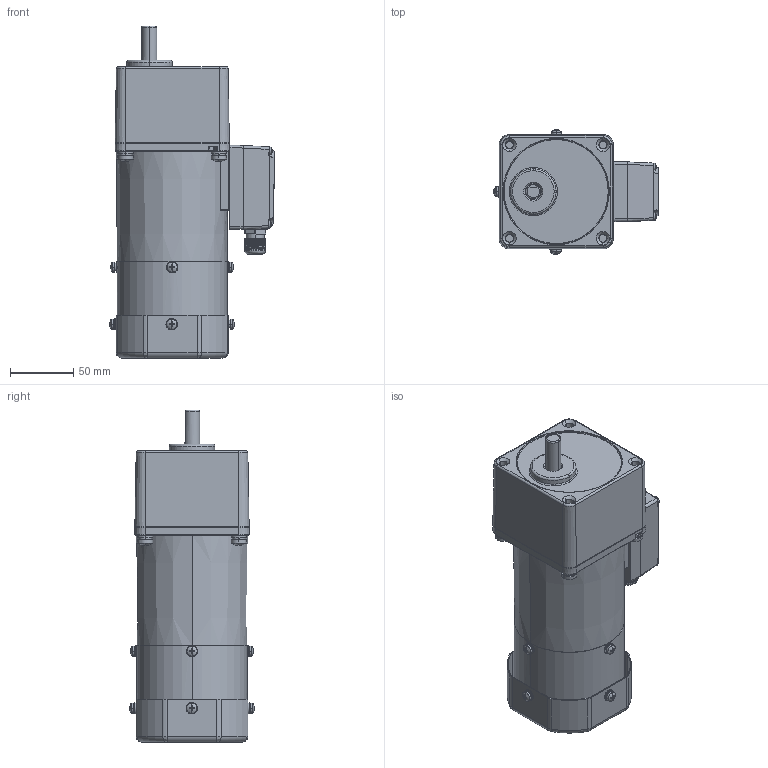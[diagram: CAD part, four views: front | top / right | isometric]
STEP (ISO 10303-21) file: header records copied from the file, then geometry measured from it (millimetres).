
FILE_DESCRIPTION (( 'STEP AP203' ), '1' );
FILE_NAME ('5RK60GN-CMFT(5GN3K-200K).STEP', '2023-08-08T06:03:16', ( 'Windows User' ), ( 'P R C' ), 'SwSTEP 2.0', 'SolidWorks 2019', '' );
FILE_SCHEMA (( 'CONFIG_CONTROL_DESIGN' ));
Length unit declared in the file: millimetre
Products named in the file (14): ^___5RK60GN-CMFT(5GN3K-200K)(2)_5RK60GN-CMFT(5GN3K-200K); 5RK60GN-CMFT(5GN3K-200K)(2)^5RK60GN-CMFT(5GN3K-200K); ^70TSJXHG____5RK60GN-CMFT(5GN3K-200K)(2)_5RK60GN-CMFT(5GN3K-200K); ^__5RK60GN-CMFT(5GN3K-200K)(2)_5RK60GN-CMFT(5GN3K-200K); 葩璃 (3) ^_70TSJXHG____5RK60GN-CMFT(5GN3K-200K)(2)_5RK60GN-CMFT(5GN3K-200K); 5RK60GN-CMFT(5GN3K-200K); 葩璃 (2) ^___5RK60GN-CMFT(5GN3K-200K)(2)_5RK60GN-CMFT(5GN3K-200K); ^5RK60GN-CMFT(5GN3K-200K)(2)_5RK60GN-CMFT(5GN3K-200K); 70TSJXHG^___5RK60GN-CMFT(5GN3K-200K)(2)_5RK60GN-CMFT(5GN3K-200K); 葩璃 (2) ^_70TSJXHG____5RK60GN-CMFT(5GN3K-200K)(2)_5RK60GN-CMFT(5GN3K-200K); ^_5RK60GN-CMFT(5GN3K-200K)(2)_5RK60GN-CMFT(5GN3K-200K); ^_70TSJXHG____5RK60GN-CMFT(5GN3K-200K)(2)_5RK60GN-CMFT(5GN3K-200K); 5GN3K__200K^5RK60GN-CMFT(5GN3K-200K)(2)_5RK60GN-CMFT(5GN3K-200K)
Assembly tree (16 placements, depth 8):
  5RK60GN-CMFT(5GN3K-200K)
    5RK60GN-CMFT(5GN3K-200K)(2)^5RK60GN-CMFT(5GN3K-200K)
      ^5RK60GN-CMFT(5GN3K-200K)(2)_5RK60GN-CMFT(5GN3K-200K)
        ^_5RK60GN-CMFT(5GN3K-200K)(2)_5RK60GN-CMFT(5GN3K-200K)
          ^__5RK60GN-CMFT(5GN3K-200K)(2)_5RK60GN-CMFT(5GN3K-200K)
            70TSJXHG^___5RK60GN-CMFT(5GN3K-200K)(2)_5RK60GN-CMFT(5GN3K-200K)
              ^70TSJXHG____5RK60GN-CMFT(5GN3K-200K)(2)_5RK60GN-CMFT(5GN3K-200K)
                ^_70TSJXHG____5RK60GN-CMFT(5GN3K-200K)(2)_5RK60GN-CMFT(5GN3K-200K)
                葩璃 (2) ^_70TSJXHG____5RK60GN-CMFT(5GN3K-200K)(2)_5RK60GN-CMFT(5GN3K-200K)
                葩璃 (3) ^_70TSJXHG____5RK60GN-CMFT(5GN3K-200K)(2)_5RK60GN-CMFT(5GN3K-200K)  x4
            ^___5RK60GN-CMFT(5GN3K-200K)(2)_5RK60GN-CMFT(5GN3K-200K)
            葩璃 (2) ^___5RK60GN-CMFT(5GN3K-200K)(2)_5RK60GN-CMFT(5GN3K-200K)
          ^__5RK60GN-CMFT(5GN3K-200K)(2)_5RK60GN-CMFT(5GN3K-200K)
      5GN3K__200K^5RK60GN-CMFT(5GN3K-200K)(2)_5RK60GN-CMFT(5GN3K-200K)
Bounding box: 129.69 x 98.11 x 261.5 mm (x, y, z)
Volume: 1244131.4 mm3; surface area: 203033.8 mm2
Topology: 64 solids, 64 shells, 2200 faces, 5665 edges, 3618 vertices
Faces by surface type: cylinder 885, plane 701, cone 369, sphere 108, torus 101, bspline 36
Entity records: 63481 total; most frequent: CARTESIAN_POINT 16903, DIRECTION 9989, ORIENTED_EDGE 9266, EDGE_CURVE 4633, AXIS2_PLACEMENT_3D 4067, VERTEX_POINT 3002, CIRCLE 2265, EDGE_LOOP 1967
